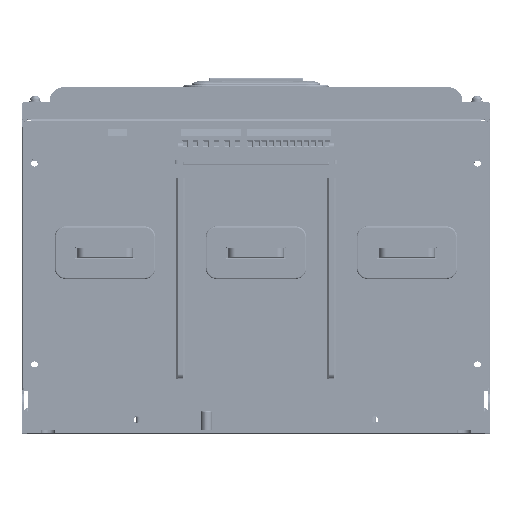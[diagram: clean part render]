
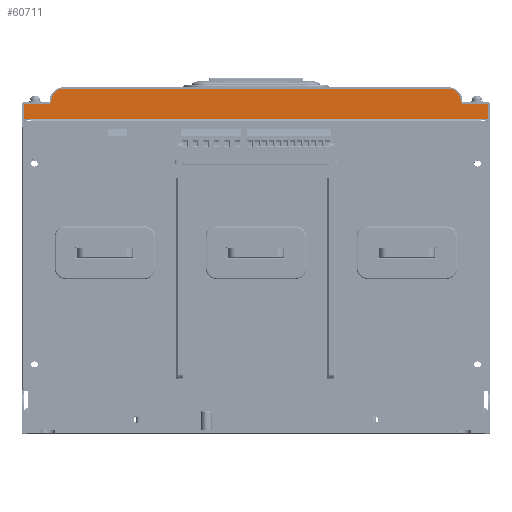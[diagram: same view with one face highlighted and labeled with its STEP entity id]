
A CAD part, top view. The second image highlights one B-rep face of the part: STEP entity #60711.
In plain terms, the highlighted planar face has unit normal (0, 0, 1) as drawn and (0, 0, -1) by its records, which use the part's own axes.
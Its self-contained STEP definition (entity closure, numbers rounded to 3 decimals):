
#60440=CARTESIAN_POINT('',(-12.5,-167.3,-207.5));
#60441=DIRECTION('',(0.,0.,1.));
#60442=DIRECTION('',(0.,-1.,0.));
#60443=AXIS2_PLACEMENT_3D('',#60440,#60441,#60442);
#60445=DIRECTION('',(0.,1.,0.));
#60446=VECTOR('',#60445,17.8);
#60447=CARTESIAN_POINT('',(-12.,-167.3,-207.5));
#60448=LINE('',#60447,#60446);
#60449=CARTESIAN_POINT('',(-10.3,-149.5,-207.5));
#60450=DIRECTION('',(0.,0.,-1.));
#60451=DIRECTION('',(-1.,0.,0.));
#60452=AXIS2_PLACEMENT_3D('',#60449,#60450,#60451);
#60454=DIRECTION('',(1.,0.,0.));
#60455=VECTOR('',#60454,0.3);
#60456=CARTESIAN_POINT('',(-10.3,-147.8,-207.5));
#60457=LINE('',#60456,#60455);
#60458=CARTESIAN_POINT('',(-10.,-139.,-207.5));
#60459=DIRECTION('',(0.,0.,1.));
#60460=DIRECTION('',(0.,-1.,0.));
#60461=AXIS2_PLACEMENT_3D('',#60458,#60459,#60460);
#60463=DIRECTION('',(0.,1.,0.));
#60464=VECTOR('',#60463,278.);
#60465=CARTESIAN_POINT('',(-1.2,-139.,-207.5));
#60466=LINE('',#60465,#60464);
#60467=CARTESIAN_POINT('',(-10.,139.,-207.5));
#60468=DIRECTION('',(0.,0.,1.));
#60469=DIRECTION('',(1.,0.,0.));
#60470=AXIS2_PLACEMENT_3D('',#60467,#60468,#60469);
#60472=DIRECTION('',(-1.,0.,0.));
#60473=VECTOR('',#60472,0.3);
#60474=CARTESIAN_POINT('',(-10.,147.8,-207.5));
#60475=LINE('',#60474,#60473);
#60476=CARTESIAN_POINT('',(-10.3,149.5,-207.5));
#60477=DIRECTION('',(0.,0.,-1.));
#60478=DIRECTION('',(0.,-1.,0.));
#60479=AXIS2_PLACEMENT_3D('',#60476,#60477,#60478);
#60481=DIRECTION('',(0.,1.,0.));
#60482=VECTOR('',#60481,17.8);
#60483=CARTESIAN_POINT('',(-12.,149.5,-207.5));
#60484=LINE('',#60483,#60482);
#60485=CARTESIAN_POINT('',(-12.5,167.3,-207.5));
#60486=DIRECTION('',(0.,0.,1.));
#60487=DIRECTION('',(1.,0.,0.));
#60488=AXIS2_PLACEMENT_3D('',#60485,#60486,#60487);
#60490=DIRECTION('',(-1.,0.,0.));
#60491=VECTOR('',#60490,10.5);
#60492=CARTESIAN_POINT('',(-12.5,167.8,-207.5));
#60493=LINE('',#60492,#60491);
#60494=DIRECTION('',(0.,-1.,0.));
#60495=VECTOR('',#60494,335.6);
#60496=CARTESIAN_POINT('',(-23.,167.8,-207.5));
#60497=LINE('',#60496,#60495);
#60498=DIRECTION('',(1.,0.,0.));
#60499=VECTOR('',#60498,10.5);
#60500=CARTESIAN_POINT('',(-23.,-167.8,-207.5));
#60501=LINE('',#60500,#60499);
#60620=CARTESIAN_POINT('',(-12.5,-167.8,-207.5));
#60621=CARTESIAN_POINT('',(-12.,-167.3,-207.5));
#60622=VERTEX_POINT('',#60620);
#60623=VERTEX_POINT('',#60621);
#60624=CARTESIAN_POINT('',(-12.,-149.5,-207.5));
#60625=VERTEX_POINT('',#60624);
#60626=CARTESIAN_POINT('',(-10.3,-147.8,-207.5));
#60627=VERTEX_POINT('',#60626);
#60628=CARTESIAN_POINT('',(-10.,-147.8,-207.5));
#60629=VERTEX_POINT('',#60628);
#60630=CARTESIAN_POINT('',(-1.2,-139.,-207.5));
#60631=VERTEX_POINT('',#60630);
#60632=CARTESIAN_POINT('',(-1.2,139.,-207.5));
#60633=VERTEX_POINT('',#60632);
#60634=CARTESIAN_POINT('',(-10.,147.8,-207.5));
#60635=VERTEX_POINT('',#60634);
#60636=CARTESIAN_POINT('',(-10.3,147.8,-207.5));
#60637=VERTEX_POINT('',#60636);
#60638=CARTESIAN_POINT('',(-12.,149.5,-207.5));
#60639=VERTEX_POINT('',#60638);
#60640=CARTESIAN_POINT('',(-12.,167.3,-207.5));
#60641=VERTEX_POINT('',#60640);
#60642=CARTESIAN_POINT('',(-12.5,167.8,-207.5));
#60643=VERTEX_POINT('',#60642);
#60644=CARTESIAN_POINT('',(-23.,167.8,-207.5));
#60645=VERTEX_POINT('',#60644);
#60646=CARTESIAN_POINT('',(-23.,-167.8,-207.5));
#60647=VERTEX_POINT('',#60646);
#60676=CARTESIAN_POINT('',(0.,0.,-207.5));
#60677=DIRECTION('',(0.,0.,1.));
#60678=DIRECTION('',(0.,-1.,0.));
#60679=AXIS2_PLACEMENT_3D('',#60676,#60677,#60678);
#60680=PLANE('',#60679);
#60682=ORIENTED_EDGE('',*,*,#60681,.T.);
#60684=ORIENTED_EDGE('',*,*,#60683,.T.);
#60686=ORIENTED_EDGE('',*,*,#60685,.T.);
#60688=ORIENTED_EDGE('',*,*,#60687,.T.);
#60690=ORIENTED_EDGE('',*,*,#60689,.T.);
#60692=ORIENTED_EDGE('',*,*,#60691,.T.);
#60694=ORIENTED_EDGE('',*,*,#60693,.T.);
#60696=ORIENTED_EDGE('',*,*,#60695,.T.);
#60698=ORIENTED_EDGE('',*,*,#60697,.T.);
#60700=ORIENTED_EDGE('',*,*,#60699,.T.);
#60702=ORIENTED_EDGE('',*,*,#60701,.T.);
#60704=ORIENTED_EDGE('',*,*,#60703,.T.);
#60706=ORIENTED_EDGE('',*,*,#60705,.T.);
#60708=ORIENTED_EDGE('',*,*,#60707,.T.);
#60709=EDGE_LOOP('',(#60682,#60684,#60686,#60688,#60690,#60692,#60694,#60696,
#60698,#60700,#60702,#60704,#60706,#60708));
#60710=FACE_OUTER_BOUND('',#60709,.F.);
#60711=ADVANCED_FACE('',(#60710),#60680,.F.);
#60444=CIRCLE('',#60443,0.5);
#60453=CIRCLE('',#60452,1.7);
#60462=CIRCLE('',#60461,8.8);
#60471=CIRCLE('',#60470,8.8);
#60480=CIRCLE('',#60479,1.7);
#60489=CIRCLE('',#60488,0.5);
#60681=EDGE_CURVE('',#60622,#60623,#60444,.T.);
#60683=EDGE_CURVE('',#60623,#60625,#60448,.T.);
#60685=EDGE_CURVE('',#60625,#60627,#60453,.T.);
#60687=EDGE_CURVE('',#60627,#60629,#60457,.T.);
#60689=EDGE_CURVE('',#60629,#60631,#60462,.T.);
#60691=EDGE_CURVE('',#60631,#60633,#60466,.T.);
#60693=EDGE_CURVE('',#60633,#60635,#60471,.T.);
#60695=EDGE_CURVE('',#60635,#60637,#60475,.T.);
#60697=EDGE_CURVE('',#60637,#60639,#60480,.T.);
#60699=EDGE_CURVE('',#60639,#60641,#60484,.T.);
#60701=EDGE_CURVE('',#60641,#60643,#60489,.T.);
#60703=EDGE_CURVE('',#60643,#60645,#60493,.T.);
#60705=EDGE_CURVE('',#60645,#60647,#60497,.T.);
#60707=EDGE_CURVE('',#60647,#60622,#60501,.T.);
